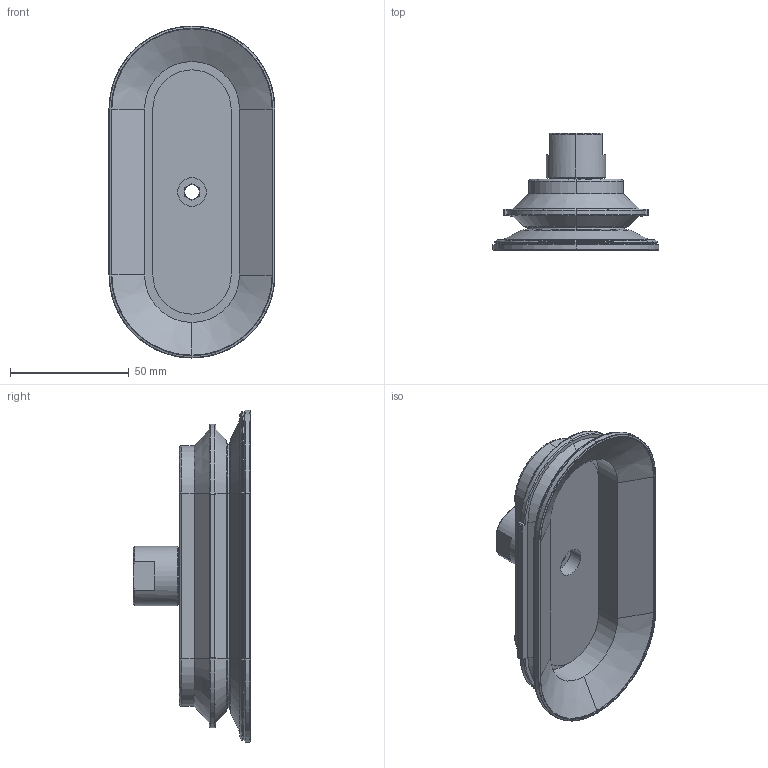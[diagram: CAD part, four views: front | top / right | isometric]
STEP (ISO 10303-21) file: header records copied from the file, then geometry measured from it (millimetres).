
FILE_DESCRIPTION (( 'STEP AP214' ), '1' );
FILE_NAME ('SAOB-140x70-G3-8IG.STEP', '2023-03-07T06:14:57', ( 'Windows User' ), ( 'P R C' ), 'SwSTEP 2.0', 'SolidWorks 2019', '' );
FILE_SCHEMA (( 'AUTOMOTIVE_DESIGN' ));
Length unit declared in the file: millimetre
Products named in the file (1): SAOB-140x70-G3-8IG
Bounding box: 70 x 49.4 x 140 mm (x, y, z)
Volume: 90803 mm3; surface area: 36856.5 mm2
Topology: 2 solids, 2 shells, 257 faces, 594 edges, 351 vertices
Faces by surface type: plane 98, cylinder 62, bspline 56, cone 41
Entity records: 12540 total; most frequent: CARTESIAN_POINT 4040, ORIENTED_EDGE 1180, DIRECTION 1158, EDGE_CURVE 590, AXIS2_PLACEMENT_3D 421, VERTEX_POINT 351, LINE 316, VECTOR 316
